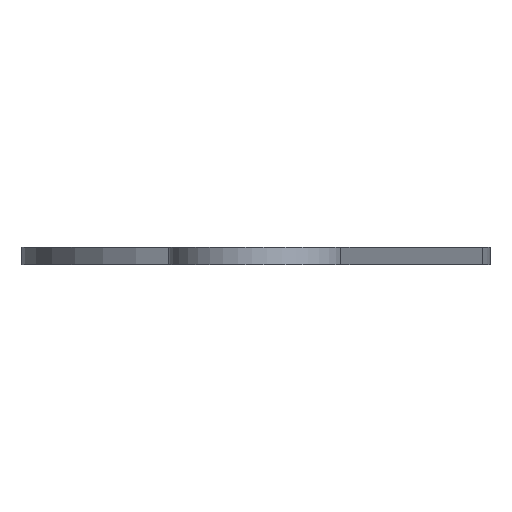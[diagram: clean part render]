
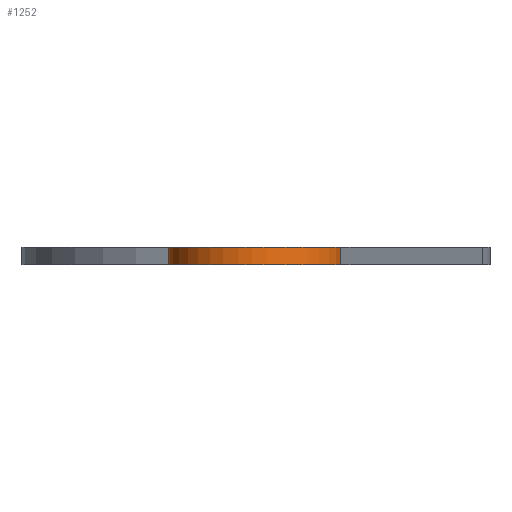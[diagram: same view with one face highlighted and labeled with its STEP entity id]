
A CAD part, front view. The second image highlights one B-rep face of the part: STEP entity #1252.
In plain terms, the highlighted cylindrical face has radius 15 mm (diameter 30 mm), a partial arc.
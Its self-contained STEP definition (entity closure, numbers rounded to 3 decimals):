
#1 = ORIENTED_EDGE ( 'NONE', *, *, #1253, .F. ) ;
#2 = VERTEX_POINT ( 'NONE', #1061 ) ;
#10 = ORIENTED_EDGE ( 'NONE', *, *, #984, .T. ) ;
#21 = VERTEX_POINT ( 'NONE', #177 ) ;
#177 = CARTESIAN_POINT ( 'NONE',  ( -15., -100., 0. ) ) ;
#282 = VERTEX_POINT ( 'NONE', #336 ) ;
#336 = CARTESIAN_POINT ( 'NONE',  ( 14.524, -103.75, 0. ) ) ;
#352 = CARTESIAN_POINT ( 'NONE',  ( 14.524, -103.75, 3. ) ) ;
#392 = DIRECTION ( 'NONE',  ( 0., 0., -1. ) ) ;
#393 = VECTOR ( 'NONE', #392, 1000. ) ;
#394 = CARTESIAN_POINT ( 'NONE',  ( -15., -100., 3. ) ) ;
#400 = LINE ( 'NONE', #394, #393 ) ;
#407 = DIRECTION ( 'NONE',  ( 0., 0., -1. ) ) ;
#408 = VECTOR ( 'NONE', #407, 1000. ) ;
#409 = LINE ( 'NONE', #352, #408 ) ;
#428 = DIRECTION ( 'NONE',  ( 1., 0., 0. ) ) ;
#429 = DIRECTION ( 'NONE',  ( 0., 0., 1. ) ) ;
#430 = CARTESIAN_POINT ( 'NONE',  ( 0., -100., 0. ) ) ;
#436 = AXIS2_PLACEMENT_3D ( 'NONE', #430, #429, #428 ) ;
#441 = CIRCLE ( 'NONE', #436, 15. ) ;
#846 = CARTESIAN_POINT ( 'NONE',  ( 0., -100., 3. ) ) ;
#850 = CIRCLE ( 'NONE', #884, 15. ) ;
#855 = DIRECTION ( 'NONE',  ( 0., 0., -1. ) ) ;
#857 = AXIS2_PLACEMENT_3D ( 'NONE', #846, #855, #886 ) ;
#872 = CYLINDRICAL_SURFACE ( 'NONE', #857, 15. ) ;
#873 = CARTESIAN_POINT ( 'NONE',  ( -15., -100., 3. ) ) ;
#881 = DIRECTION ( 'NONE',  ( 1., 0., 0. ) ) ;
#882 = DIRECTION ( 'NONE',  ( 0., 0., 1. ) ) ;
#883 = CARTESIAN_POINT ( 'NONE',  ( 0., -100., 3. ) ) ;
#884 = AXIS2_PLACEMENT_3D ( 'NONE', #883, #882, #881 ) ;
#886 = DIRECTION ( 'NONE',  ( -1., 0., 0. ) ) ;
#887 = FACE_OUTER_BOUND ( 'NONE', #1251, .T. ) ;
#974 = EDGE_CURVE ( 'NONE', #2, #282, #409, .T. ) ;
#984 = EDGE_CURVE ( 'NONE', #1235, #21, #400, .T. ) ;
#985 = ORIENTED_EDGE ( 'NONE', *, *, #997, .T. ) ;
#997 = EDGE_CURVE ( 'NONE', #21, #282, #441, .T. ) ;
#1052 = ORIENTED_EDGE ( 'NONE', *, *, #974, .F. ) ;
#1061 = CARTESIAN_POINT ( 'NONE',  ( 14.524, -103.75, 3. ) ) ;
#1235 = VERTEX_POINT ( 'NONE', #873 ) ;
#1251 = EDGE_LOOP ( 'NONE', ( #1, #10, #985, #1052 ) ) ;
#1252 = ADVANCED_FACE ( 'NONE', ( #887 ), #872, .T. ) ;
#1253 = EDGE_CURVE ( 'NONE', #1235, #2, #850, .T. ) ;
